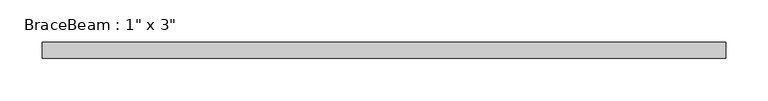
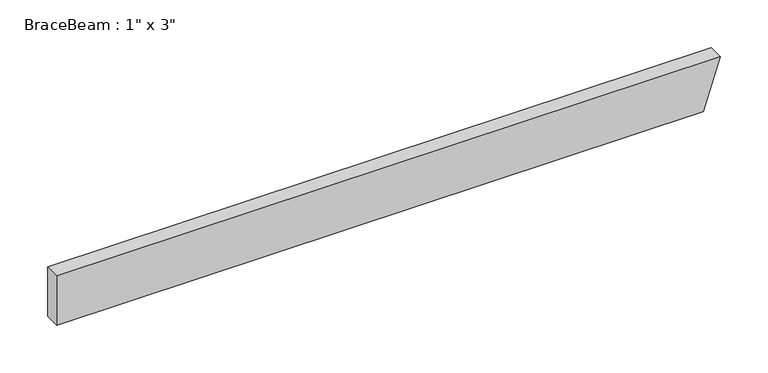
"""IFC4 building model written with IfcOpenShell, lengths in millimetres: beam geometry."""

from ifc_helpers import new_model, si_unit, origin, place, context, project, spatial, faceted_brep, source, transform, mapped, element, save


def beam_bdc5a986(model_context):
    return source(origin(), model_context, "Body", "Brep", [
        faceted_brep([(-398.8960401, 9.525, -31.75), (386.8848231, 9.525, -31.75), (386.8848231, -9.525, -31.75), (-398.8960401, -9.525, -31.75), (397.2476703, -9.525, 0.0), (407.6105175, -9.525, 31.75), (-398.8960401, -9.525, 31.75), (407.6105175, 9.525, 31.75), (-398.8960401, 9.525, 31.75), (397.2476703, 9.525, 0.0)], [[[0, 1, 2, 3]], [[3, 2, 4, 5, 6]], [[6, 5, 7, 8]], [[8, 7, 9, 1, 0]], [[8, 0, 3, 6]], [[5, 4, 2, 1, 9, 7]]]),
    ])


if __name__ == "__main__":
    model = new_model("IFC4")
    model_context = context("Model", 3, world=origin())
    ifc_project = project(units=[si_unit("LENGTHUNIT", "METRE", prefix="MILLI")], contexts=[model_context])
    site = spatial("IfcSite", under=ifc_project)
    building = spatial("IfcBuilding", under=site)
    placement = place(None, origin())
    beam_shape = beam_bdc5a986(model_context)
    element("IfcBeam", 1, ObjectType="BraceBeam : 1\" x 3\"", at=placement, inside=building, context=model_context, shape_type="MappedRepresentation", body=[
        mapped(beam_shape, transform((0.0, 0.0, 0.0), x_axis=(1.0, 0.0, 0.0), y_axis=(0.0, 1.0, 0.0), z_axis=(0.0, 0.0, 1.0))),
    ])
    save(model, "model.ifc")
